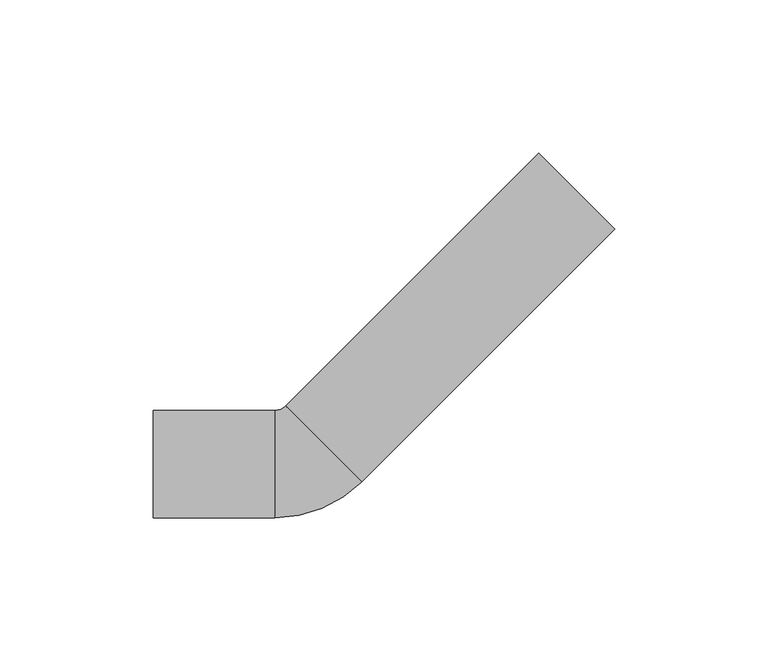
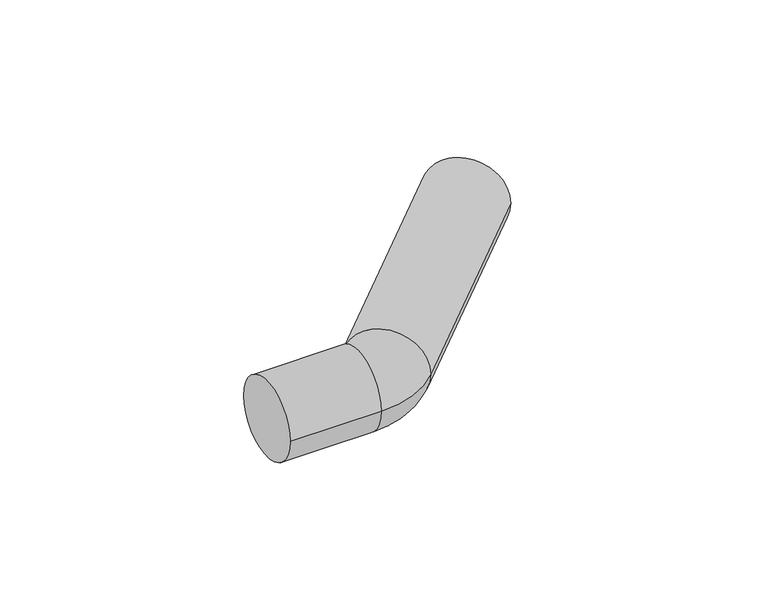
"""IFC4 building model written with IfcOpenShell, lengths in millimetres: pipe fitting geometry, NLRS_50_PIF_UN_Mapress koper pasbocht_geb : DN25-50 / d28-54 (15°/30°/45°/60°), DN12-50 / d15-54 (90°)."""

from ifc_helpers import new_model, si_unit, point, frame, origin, place, context, project, spatial, circle_curve, ellipse_curve, trimmed, source, transform, mapped, element, save
from ifc_brep_helpers import plane_surface, cylinder_surface, revolved_surface, advanced_brep


def pipe_fitting_8753d62d(model_context):
    return source(origin(), model_context, "Body", "AdvancedBrep", [
        advanced_brep(
        [(-49.0, -17.5, 0.0), (-49.0, 17.5, 0.0), (-9.3198052, -17.5, 0.0), (-9.3198052, 17.5, 0.0), (-5.7842712, 18.9644661, 0.0), (18.9644661, -5.7842712, 0.0), (101.4698231, 76.7210858, 0.0), (76.7210858, 101.4698231, 0.0)],
        [
            (0, 1, circle_curve(frame((-49.0, 0.0, 0.0), z_axis=(-1.0, 0.0, 0.0), x_axis=(0.0, 1.0, 0.0)), 17.5)),
            (1, 0, circle_curve(frame((-49.0, 0.0, 0.0), z_axis=(-1.0, 0.0, 0.0), x_axis=(0.0, 1.0, 0.0)), 17.5)),
            (0, 2),
            (2, 3, circle_curve(frame((-9.3198052, 0.0, 0.0), z_axis=(-1.0, 0.0, 0.0), x_axis=(0.0, 1.0, 0.0)), 17.5)),
            (3, 1),
            (3, 2, circle_curve(frame((-9.3198052, 0.0, 0.0), z_axis=(-1.0, 0.0, 0.0), x_axis=(0.0, 1.0, 0.0)), 17.5)),
            (4, 3, circle_curve(frame((-9.3198052, 22.5, 0.0), z_axis=(0.0, 0.0, -1.0), x_axis=(0.0, -1.0, 0.0)), 5.0)),
            (2, 5, circle_curve(frame((-9.3198052, 22.5, 0.0), z_axis=(0.0, 0.0, 1.0), x_axis=(0.0, -1.0, 0.0)), 40.0)),
            (5, 4, circle_curve(frame((6.5900974, 6.5900974, 0.0), z_axis=(-0.7071067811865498, -0.7071067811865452, 0.0), x_axis=(-0.7071067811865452, 0.7071067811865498, 0.0)), 17.5)),
            (4, 5, circle_curve(frame((6.5900974, 6.5900974, 0.0), z_axis=(-0.70710678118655, -0.707106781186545, 0.0), x_axis=(-0.707106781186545, 0.70710678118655, 0.0)), 17.5)),
            (6, 7, circle_curve(frame((89.0954544, 89.0954544, 0.0), z_axis=(0.7071067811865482, 0.7071067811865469, 0.0), x_axis=(-0.7071067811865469, 0.7071067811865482, 0.0)), 17.5)),
            (7, 6, circle_curve(frame((89.0954544, 89.0954544, 0.0), z_axis=(0.7071067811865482, 0.7071067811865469, 0.0), x_axis=(-0.7071067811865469, 0.7071067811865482, 0.0)), 17.5)),
            (5, 6),
            (7, 4),
        ],
        [
            plane_surface(frame((-49.0, 0.0, 0.0), z_axis=(-1.0, 0.0, 0.0), x_axis=(0.0, 0.0, 1.0))),
            cylinder_surface(frame((-49.0, 0.0, 0.0), z_axis=(-1.0, 0.0, 0.0), x_axis=(0.0, 1.0, 0.0)), 17.5),
            revolved_surface(trimmed(ellipse_curve(frame((-9.3198052, 0.0, 0.0), z_axis=(-1.0, 0.0, 0.0), x_axis=(0.0, 1.0, 0.0)), 17.5, 17.5), [point((-9.3198052, -17.5, 0.0))], [point((-9.3198052, 17.5, 0.0))], True, "CARTESIAN"), (-9.3198052, 22.5, 0.0), (0.0, 0.0, 1.0)),
            revolved_surface(trimmed(ellipse_curve(frame((-9.3198052, 0.0, 0.0), z_axis=(-1.0, 0.0, 0.0), x_axis=(0.0, 1.0, 0.0)), 17.5, 17.5), [point((-9.3198052, 17.5, 0.0))], [point((-9.3198052, -17.5, 0.0))], True, "CARTESIAN"), (-9.3198052, 22.5, 0.0), (0.0, 0.0, 1.0)),
            plane_surface(frame((89.0954544, 89.0954544, 0.0), z_axis=(0.7071067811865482, 0.7071067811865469, 0.0), x_axis=(0.0, 0.0, 1.0))),
            cylinder_surface(frame((6.5900974, 6.5900974, 0.0), z_axis=(-0.7071067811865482, -0.7071067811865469, 0.0), x_axis=(-0.7071067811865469, 0.7071067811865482, 0.0)), 17.5),
        ],
        [
            (0, [[1, 2]]),
            (1, [[-1, 3, 4, 5]]),
            (1, [[-2, -5, 6, -3]]),
            (2, [[7, -4, 8, 9]]),
            (3, [[-8, -6, -7, 10]]),
            (4, [[11, 12]]),
            (5, [[-9, 13, -12, 14]]),
            (5, [[-10, -14, -11, -13]]),
        ],
    ),
    ])


if __name__ == "__main__":
    model = new_model("IFC4")
    model_context = context("Model", 3, world=origin())
    ifc_project = project(units=[si_unit("LENGTHUNIT", "METRE", prefix="MILLI")], contexts=[model_context])
    site = spatial("IfcSite", under=ifc_project)
    building = spatial("IfcBuilding", under=site)
    placement = place(None, origin())
    pipe_fitting_shape = pipe_fitting_8753d62d(model_context)
    element("IfcPipeFitting", 1, ObjectType="NLRS_50_PIF_UN_Mapress koper pasbocht_geb : DN25-50 / d28-54 (15°/30°/45°/60°), DN12-50 / d15-54 (90°)", at=placement, inside=building, context=model_context, shape_type="MappedRepresentation", body=[
        mapped(pipe_fitting_shape, transform((0.0, 0.0, 0.0), x_axis=(1.0, 0.0, 0.0), y_axis=(0.0, 1.0, 0.0), z_axis=(0.0, 0.0, 1.0))),
    ])
    save(model, "model.ifc")
